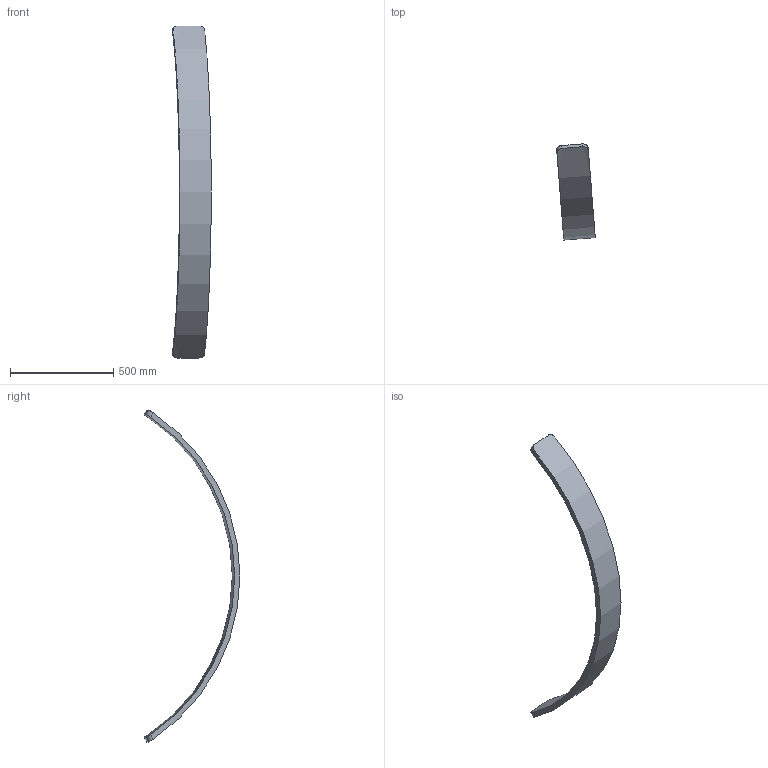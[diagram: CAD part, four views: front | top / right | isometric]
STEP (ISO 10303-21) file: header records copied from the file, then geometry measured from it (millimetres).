
FILE_DESCRIPTION (( 'STEP AP214' ), '1' );
FILE_NAME ('Section 13 AR.STEP', '2025-01-09T19:43:26', ( '' ), ( '' ), 'SwSTEP 2.0', 'SolidWorks 2024', '' );
FILE_SCHEMA (( 'AUTOMOTIVE_DESIGN' ));
Length unit declared in the file: inch
Products named in the file (1): Section 13 AR
Bounding box: 186.03 x 463.99 x 1605.72 mm (x, y, z)
Volume: 7289673.1 mm3; surface area: 676473.5 mm2
Topology: 1 solids, 1 shells, 10 faces, 24 edges, 16 vertices
Faces by surface type: cylinder 6, plane 4
Entity records: 543 total; most frequent: CARTESIAN_POINT 291, ORIENTED_EDGE 48, DIRECTION 42, EDGE_CURVE 24, VERTEX_POINT 16, AXIS2_PLACEMENT_3D 15, LINE 12, VECTOR 12
